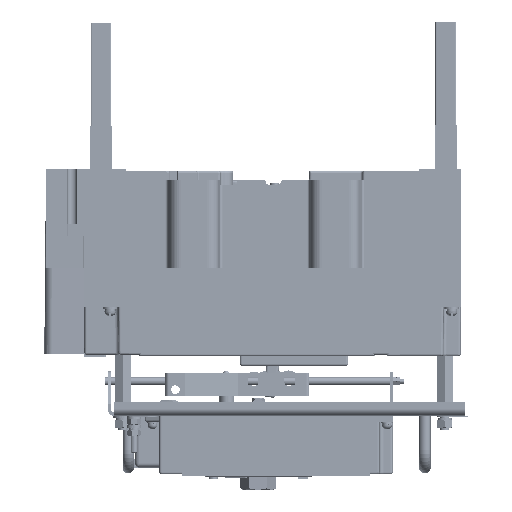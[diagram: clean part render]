
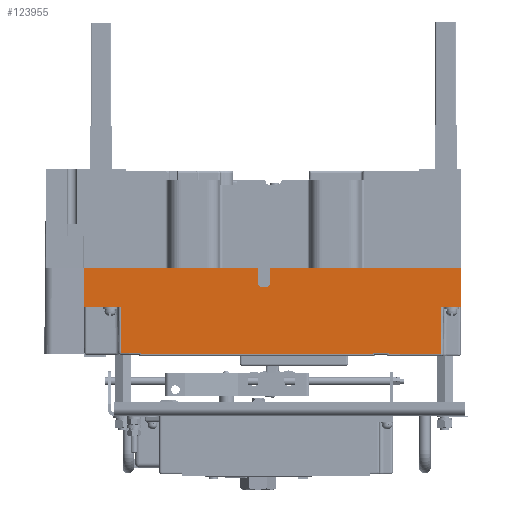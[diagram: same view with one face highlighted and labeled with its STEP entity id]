
A CAD part, left-side view. The second image highlights one B-rep face of the part: STEP entity #123955.
In plain terms, the highlighted planar face has unit normal (-1, 0, 0).
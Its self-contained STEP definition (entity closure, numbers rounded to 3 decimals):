
#9354 = LINE ( 'NONE', #25298, #9381 ) ;
#9381 = VECTOR ( 'NONE', #25335, 1000. ) ;
#9405 = LINE ( 'NONE', #25429, #9428 ) ;
#9428 = VECTOR ( 'NONE', #25454, 1000. ) ;
#9440 = LINE ( 'NONE', #25501, #9451 ) ;
#9451 = VECTOR ( 'NONE', #25475, 1000. ) ;
#9453 = LINE ( 'NONE', #25566, #9467 ) ;
#9467 = VECTOR ( 'NONE', #25587, 1000. ) ;
#9471 = LINE ( 'NONE', #25642, #9487 ) ;
#9484 = LINE ( 'NONE', #25645, #9503 ) ;
#9487 = VECTOR ( 'NONE', #25655, 1000. ) ;
#9503 = VECTOR ( 'NONE', #25678, 1000. ) ;
#9507 = LINE ( 'NONE', #25726, #9525 ) ;
#9525 = VECTOR ( 'NONE', #25745, 1000. ) ;
#9529 = LINE ( 'NONE', #25759, #9551 ) ;
#9540 = LINE ( 'NONE', #25810, #9558 ) ;
#9551 = VECTOR ( 'NONE', #25799, 1000. ) ;
#9558 = VECTOR ( 'NONE', #25828, 1000. ) ;
#9597 = LINE ( 'NONE', #25904, #9612 ) ;
#9612 = VECTOR ( 'NONE', #25927, 1000. ) ;
#9650 = LINE ( 'NONE', #26075, #9666 ) ;
#9666 = VECTOR ( 'NONE', #26083, 1000. ) ;
#25298 = CARTESIAN_POINT ( 'NONE',  ( -165.87, -19.822, -147.955 ) ) ;
#25335 = DIRECTION ( 'NONE',  ( 0., -1., 0. ) ) ;
#25429 = CARTESIAN_POINT ( 'NONE',  ( -165.87, -19.822, -146.755 ) ) ;
#25454 = DIRECTION ( 'NONE',  ( 0., -1., 0. ) ) ;
#25475 = DIRECTION ( 'NONE',  ( 0., -0.009, 1. ) ) ;
#25501 = CARTESIAN_POINT ( 'NONE',  ( -165.87, -67.182, -107.437 ) ) ;
#25566 = CARTESIAN_POINT ( 'NONE',  ( -165.87, -19.822, -147.955 ) ) ;
#25587 = DIRECTION ( 'NONE',  ( 0., -1., 0. ) ) ;
#25642 = CARTESIAN_POINT ( 'NONE',  ( -165.87, -21.822, -149.955 ) ) ;
#25645 = CARTESIAN_POINT ( 'NONE',  ( -165.87, 195.743, -146.755 ) ) ;
#25655 = DIRECTION ( 'NONE',  ( 0., 0., -1. ) ) ;
#25678 = DIRECTION ( 'NONE',  ( 0., -1., 0. ) ) ;
#25726 = CARTESIAN_POINT ( 'NONE',  ( -165.87, -7.447, -148.755 ) ) ;
#25745 = DIRECTION ( 'NONE',  ( 0., 0., 1. ) ) ;
#25759 = CARTESIAN_POINT ( 'NONE',  ( -165.87, 243.343, -73.105 ) ) ;
#25799 = DIRECTION ( 'NONE',  ( 0., 0., -1. ) ) ;
#25810 = CARTESIAN_POINT ( 'NONE',  ( -165.87, 193.743, -149.955 ) ) ;
#25828 = DIRECTION ( 'NONE',  ( 0., 0., -1. ) ) ;
#25904 = CARTESIAN_POINT ( 'NONE',  ( -165.87, 211.525, -148.737 ) ) ;
#25927 = DIRECTION ( 'NONE',  ( 0., -0.009, -1. ) ) ;
#26075 = CARTESIAN_POINT ( 'NONE',  ( -165.87, -83.972, -107.455 ) ) ;
#26083 = DIRECTION ( 'NONE',  ( 0., 0., 1. ) ) ;
#54510 = ORIENTED_EDGE ( 'NONE', *, *, #244587, .T. ) ;
#54522 = ORIENTED_EDGE ( 'NONE', *, *, #397684, .T. ) ;
#54534 = ORIENTED_EDGE ( 'NONE', *, *, #397655, .T. ) ;
#54546 = ORIENTED_EDGE ( 'NONE', *, *, #397671, .T. ) ;
#54558 = ORIENTED_EDGE ( 'NONE', *, *, #397646, .T. ) ;
#54570 = ORIENTED_EDGE ( 'NONE', *, *, #397662, .T. ) ;
#54582 = ORIENTED_EDGE ( 'NONE', *, *, #397633, .T. ) ;
#54594 = ORIENTED_EDGE ( 'NONE', *, *, #397652, .T. ) ;
#54606 = ORIENTED_EDGE ( 'NONE', *, *, #397621, .T. ) ;
#54618 = ORIENTED_EDGE ( 'NONE', *, *, #397640, .T. ) ;
#54630 = ORIENTED_EDGE ( 'NONE', *, *, #248962, .T. ) ;
#54642 = ORIENTED_EDGE ( 'NONE', *, *, #397699, .T. ) ;
#54654 = ORIENTED_EDGE ( 'NONE', *, *, #249265, .T. ) ;
#54666 = ORIENTED_EDGE ( 'NONE', *, *, #397668, .T. ) ;
#64639 = VERTEX_POINT ( 'NONE', #324819 ) ;
#65283 = VERTEX_POINT ( 'NONE', #324957 ) ;
#67290 = VERTEX_POINT ( 'NONE', #325598 ) ;
#67931 = VERTEX_POINT ( 'NONE', #325713 ) ;
#72329 = CARTESIAN_POINT ( 'NONE',  ( -165.87, 193.743, -147.955 ) ) ;
#72435 = CARTESIAN_POINT ( 'NONE',  ( -165.87, 193.743, -146.755 ) ) ;
#72687 = CARTESIAN_POINT ( 'NONE',  ( -165.87, -7.447, -147.955 ) ) ;
#72727 = CARTESIAN_POINT ( 'NONE',  ( -165.87, 211.542, -146.755 ) ) ;
#72840 = CARTESIAN_POINT ( 'NONE',  ( -165.87, -7.447, -146.755 ) ) ;
#72971 = CARTESIAN_POINT ( 'NONE',  ( -165.87, -21.822, -147.955 ) ) ;
#73036 = CARTESIAN_POINT ( 'NONE',  ( -165.87, -21.822, -146.755 ) ) ;
#73048 = CARTESIAN_POINT ( 'NONE',  ( -165.87, -66.829, -147.955 ) ) ;
#82928 = AXIS2_PLACEMENT_3D ( 'NONE', #230186, #230208, #230212 ) ;
#123955 = ADVANCED_FACE ( 'NONE', ( #224003 ), #230181, .T. ) ;
#129214 = VERTEX_POINT ( 'NONE', #313199 ) ;
#130159 = VERTEX_POINT ( 'NONE', #316075 ) ;
#212406 = EDGE_LOOP ( 'NONE', ( #54510, #54522, #54534, #54546, #54558, #54570, #54582, #54594, #54606, #54618, #54630, #54642, #54654, #54666 ) ) ;
#224003 = FACE_OUTER_BOUND ( 'NONE', #212406, .T. ) ;
#228317 = VERTEX_POINT ( 'NONE', #72329 ) ;
#228486 = VERTEX_POINT ( 'NONE', #72435 ) ;
#228881 = VERTEX_POINT ( 'NONE', #72687 ) ;
#228936 = VERTEX_POINT ( 'NONE', #72727 ) ;
#229108 = VERTEX_POINT ( 'NONE', #72840 ) ;
#229292 = VERTEX_POINT ( 'NONE', #72971 ) ;
#229377 = VERTEX_POINT ( 'NONE', #73036 ) ;
#229393 = VERTEX_POINT ( 'NONE', #73048 ) ;
#230181 = PLANE ( 'NONE',  #82928 ) ;
#230186 = CARTESIAN_POINT ( 'NONE',  ( -165.87, -19.822, -149.955 ) ) ;
#230208 = DIRECTION ( 'NONE',  ( -1., 0., 0. ) ) ;
#230212 = DIRECTION ( 'NONE',  ( 0., 1., 0. ) ) ;
#244587 = EDGE_CURVE ( 'NONE', #67290, #129214, #318473, .T. ) ;
#248962 = EDGE_CURVE ( 'NONE', #64639, #130159, #343687, .T. ) ;
#249265 = EDGE_CURVE ( 'NONE', #67931, #65283, #344026, .T. ) ;
#299591 = CARTESIAN_POINT ( 'NONE',  ( -165.87, 243.343, -107.455 ) ) ;
#299597 = DIRECTION ( 'NONE',  ( 0., -1., 0. ) ) ;
#313199 = CARTESIAN_POINT ( 'NONE',  ( -165.87, 211.885, -107.455 ) ) ;
#316075 = CARTESIAN_POINT ( 'NONE',  ( -165.87, -83.972, -107.455 ) ) ;
#318473 = LINE ( 'NONE', #299591, #318477 ) ;
#318477 = VECTOR ( 'NONE', #299597, 1000. ) ;
#324819 = CARTESIAN_POINT ( 'NONE',  ( -165.87, -67.182, -107.455 ) ) ;
#324957 = CARTESIAN_POINT ( 'NONE',  ( -165.87, 243.343, -73.105 ) ) ;
#325598 = CARTESIAN_POINT ( 'NONE',  ( -165.87, 243.343, -107.455 ) ) ;
#325713 = CARTESIAN_POINT ( 'NONE',  ( -165.87, -83.972, -73.105 ) ) ;
#343687 = LINE ( 'NONE', #348110, #343701 ) ;
#343701 = VECTOR ( 'NONE', #348113, 1000. ) ;
#344026 = LINE ( 'NONE', #348713, #344095 ) ;
#344095 = VECTOR ( 'NONE', #348727, 1000. ) ;
#348110 = CARTESIAN_POINT ( 'NONE',  ( -165.87, -69.182, -107.455 ) ) ;
#348113 = DIRECTION ( 'NONE',  ( 0., -1., 0. ) ) ;
#348713 = CARTESIAN_POINT ( 'NONE',  ( -165.87, -83.972, -73.105 ) ) ;
#348727 = DIRECTION ( 'NONE',  ( 0., 1., 0. ) ) ;
#397621 = EDGE_CURVE ( 'NONE', #229292, #229393, #9354, .T. ) ;
#397633 = EDGE_CURVE ( 'NONE', #229108, #229377, #9405, .T. ) ;
#397640 = EDGE_CURVE ( 'NONE', #229393, #64639, #9440, .T. ) ;
#397646 = EDGE_CURVE ( 'NONE', #228317, #228881, #9453, .T. ) ;
#397652 = EDGE_CURVE ( 'NONE', #229377, #229292, #9471, .T. ) ;
#397655 = EDGE_CURVE ( 'NONE', #228936, #228486, #9484, .T. ) ;
#397662 = EDGE_CURVE ( 'NONE', #228881, #229108, #9507, .T. ) ;
#397668 = EDGE_CURVE ( 'NONE', #65283, #67290, #9529, .T. ) ;
#397671 = EDGE_CURVE ( 'NONE', #228486, #228317, #9540, .T. ) ;
#397684 = EDGE_CURVE ( 'NONE', #129214, #228936, #9597, .T. ) ;
#397699 = EDGE_CURVE ( 'NONE', #130159, #67931, #9650, .T. ) ;
